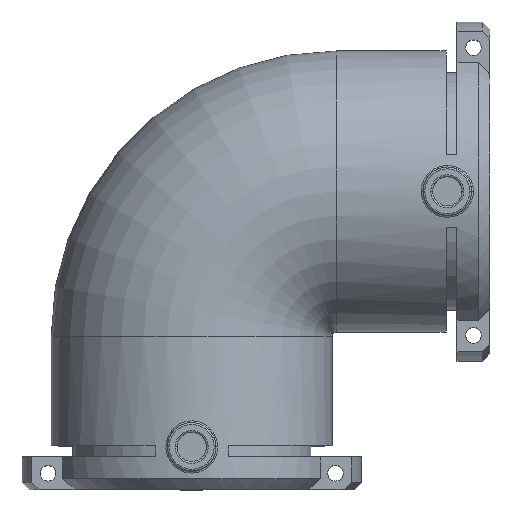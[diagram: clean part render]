
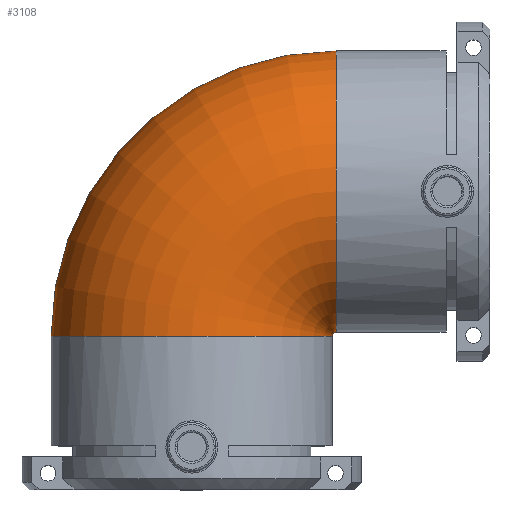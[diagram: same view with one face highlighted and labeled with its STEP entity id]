
A CAD part, top view. The second image highlights one B-rep face of the part: STEP entity #3108.
In plain terms, the highlighted toroidal (fillet/blend) face has major radius 39.6 mm and minor radius 38.5 mm.
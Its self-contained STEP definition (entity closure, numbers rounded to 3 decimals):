
#1741 = EDGE_LOOP ( 'NONE', ( #5953, #5954, #6590, #6591 ) ) ;
#3108 = ADVANCED_FACE ( 'NONE', ( #5277 ), #7773, .T. ) ;
#3122 = EDGE_CURVE ( 'NONE', #4057, #4055, #7787, .T. ) ;
#3124 = EDGE_CURVE ( 'NONE', #4057, #4059, #7789, .T. ) ;
#3127 = EDGE_CURVE ( 'NONE', #4059, #4060, #7786, .T. ) ;
#3131 = EDGE_CURVE ( 'NONE', #4055, #4060, #7793, .T. ) ;
#4055 = VERTEX_POINT ( 'NONE', #8705 ) ;
#4057 = VERTEX_POINT ( 'NONE', #8708 ) ;
#4059 = VERTEX_POINT ( 'NONE', #8698 ) ;
#4060 = VERTEX_POINT ( 'NONE', #8710 ) ;
#5274 = DIRECTION ( 'NONE',  ( 0., 0., 1. ) ) ;
#5277 = FACE_OUTER_BOUND ( 'NONE', #1741, .T. ) ;
#5278 = CARTESIAN_POINT ( 'NONE',  ( -0.014, -23.566, -33.048 ) ) ;
#5280 = DIRECTION ( 'NONE',  ( 1., 0., 0. ) ) ;
#5339 = CARTESIAN_POINT ( 'NONE',  ( -0.014, -23.566, -33.048 ) ) ;
#5340 = DIRECTION ( 'NONE',  ( 0., 0., 1. ) ) ;
#5341 = DIRECTION ( 'NONE',  ( 1., 0., 0. ) ) ;
#5345 = CARTESIAN_POINT ( 'NONE',  ( -0.014, 16.034, -33.048 ) ) ;
#5346 = DIRECTION ( 'NONE',  ( 1., 0., 0. ) ) ;
#5347 = DIRECTION ( 'NONE',  ( 0., 0., -1. ) ) ;
#5356 = CARTESIAN_POINT ( 'NONE',  ( -0.014, -23.566, -33.048 ) ) ;
#5357 = DIRECTION ( 'NONE',  ( 0., 0., 1. ) ) ;
#5358 = DIRECTION ( 'NONE',  ( 1., 0., 0. ) ) ;
#5371 = CARTESIAN_POINT ( 'NONE',  ( -39.614, -23.566, -33.048 ) ) ;
#5372 = DIRECTION ( 'NONE',  ( 0., 1., 0. ) ) ;
#5373 = DIRECTION ( 'NONE',  ( 0., 0., -1. ) ) ;
#5953 = ORIENTED_EDGE ( 'NONE', *, *, #3124, .F. ) ;
#5954 = ORIENTED_EDGE ( 'NONE', *, *, #3122, .T. ) ;
#6590 = ORIENTED_EDGE ( 'NONE', *, *, #3131, .T. ) ;
#6591 = ORIENTED_EDGE ( 'NONE', *, *, #3127, .F. ) ;
#7773 = TOROIDAL_SURFACE ( 'NONE', #7774, 39.6, 38.5 ) ;
#7774 = AXIS2_PLACEMENT_3D ( 'NONE', #5278, #5274, #5280 ) ;
#7786 = CIRCLE ( 'NONE', #7791, 1.1 ) ;
#7787 = CIRCLE ( 'NONE', #7788, 78.1 ) ;
#7788 = AXIS2_PLACEMENT_3D ( 'NONE', #5339, #5340, #5341 ) ;
#7789 = CIRCLE ( 'NONE', #7790, 38.5 ) ;
#7790 = AXIS2_PLACEMENT_3D ( 'NONE', #5345, #5346, #5347 ) ;
#7791 = AXIS2_PLACEMENT_3D ( 'NONE', #5356, #5357, #5358 ) ;
#7793 = CIRCLE ( 'NONE', #7795, 38.5 ) ;
#7795 = AXIS2_PLACEMENT_3D ( 'NONE', #5371, #5372, #5373 ) ;
#8698 = CARTESIAN_POINT ( 'NONE',  ( -0.014, -22.466, -33.048 ) ) ;
#8705 = CARTESIAN_POINT ( 'NONE',  ( -78.114, -23.566, -33.048 ) ) ;
#8708 = CARTESIAN_POINT ( 'NONE',  ( -0.014, 54.534, -33.048 ) ) ;
#8710 = CARTESIAN_POINT ( 'NONE',  ( -1.114, -23.566, -33.048 ) ) ;
